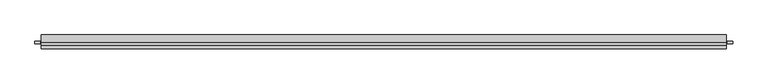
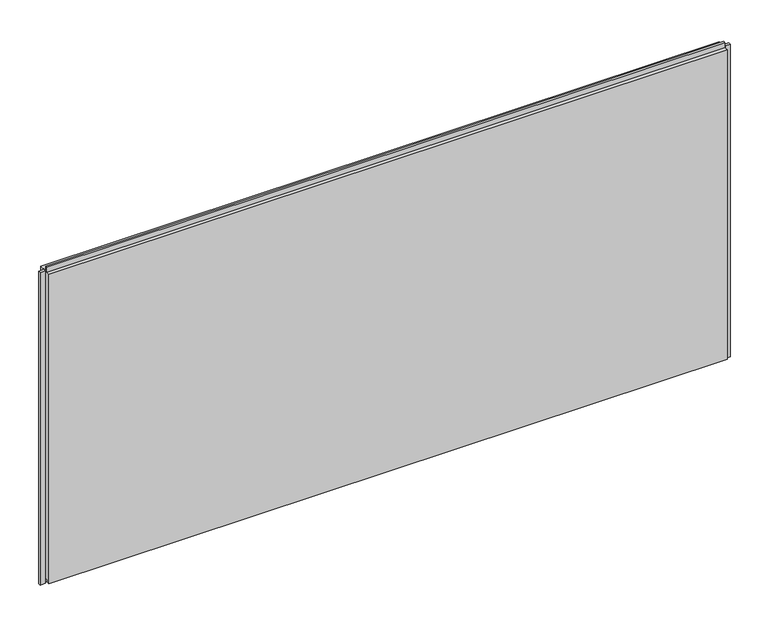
"""IFC4 building model written with IfcOpenShell, lengths in millimetres: plate geometry, Trimo_Qbiss Screen_Normal Panel-HORIZONTAL : HR - FB."""

from ifc_helpers import new_model, si_unit, frame, origin, place, context, project, spatial, polyline, outline, extrude, source, transform, mapped, element, save


def plate_a37fb7f1(model_context):
    return source(origin(), model_context, "Body", "SweptSolid", [
        extrude(outline(polyline([(-1228.0, 76.5978162), (-1228.0, 67.8978162), (-1247.0, 67.8978162), (-1247.0, 76.5978162), (-1228.0, 76.5978162)])), frame((0.0, 0.0, -1.0), z_axis=(0.0, 0.0, 1.0), x_axis=(1.0, 0.0, 0.0)), (0.0, 0.0, 1.0), 1200.0),
        extrude(outline(polyline([(1240.5, 67.8978162), (1240.5, 76.5978162), (1259.5, 76.5978162), (1259.5, 67.8978162), (1240.5, 67.8978162)])), frame((0.0, 0.0, -1.0), z_axis=(0.0, 0.0, 1.0), x_axis=(1.0, 0.0, 0.0)), (0.0, 0.0, 1.0), 1200.0),
        extrude(outline(polyline([(71.0, 1196.0), (100.0, 1196.0), (100.0, 0.0), (72.0, 0.0), (72.0, 15.5), (62.0, 15.5), (62.0, 7.0), (50.0, 7.0), (50.0, 1196.0), (63.0, 1196.0), (63.0, 1214.5), (71.0, 1214.5), (71.0, 1196.0)])), frame((-1225.0, 0.0, 0.0), z_axis=(1.0, 0.0, 0.0), x_axis=(0.0, 1.0, 0.0)), (0.0, 0.0, 1.0), 2462.5),
    ])


if __name__ == "__main__":
    model = new_model("IFC4")
    model_context = context("Model", 3, world=origin())
    ifc_project = project(units=[si_unit("LENGTHUNIT", "METRE", prefix="MILLI")], contexts=[model_context])
    site = spatial("IfcSite", under=ifc_project)
    building = spatial("IfcBuilding", under=site)
    placement = place(None, origin())
    plate_shape = plate_a37fb7f1(model_context)
    element("IfcPlate", 1, ObjectType="Trimo_Qbiss Screen_Normal Panel-HORIZONTAL : HR - FB", at=placement, inside=building, context=model_context, shape_type="MappedRepresentation", body=[
        mapped(plate_shape, transform((0.0, 0.0, 0.0), x_axis=(1.0, 0.0, 0.0), y_axis=(0.0, 1.0, 0.0), z_axis=(0.0, 0.0, 1.0))),
    ])
    save(model, "model.ifc")
